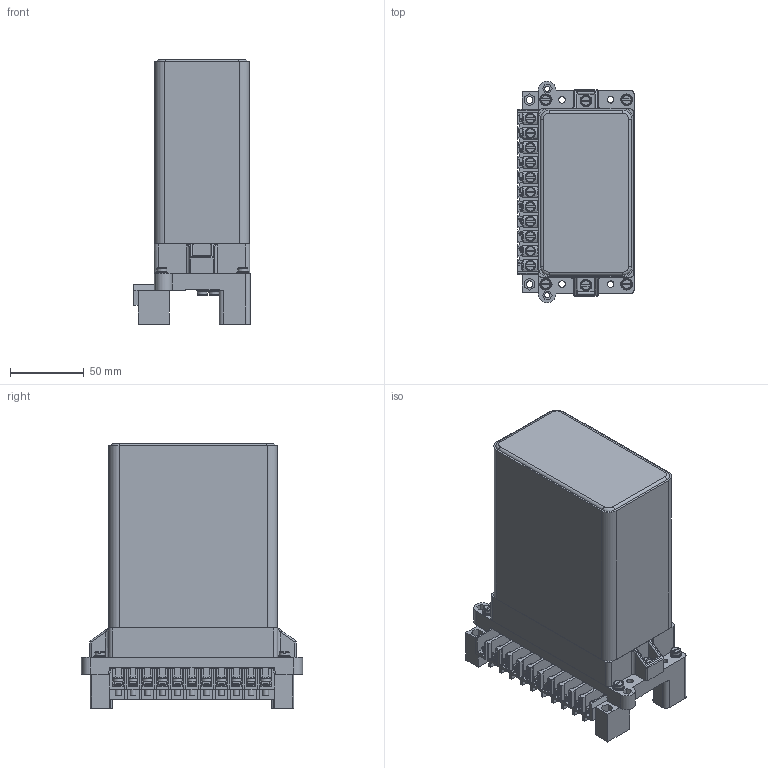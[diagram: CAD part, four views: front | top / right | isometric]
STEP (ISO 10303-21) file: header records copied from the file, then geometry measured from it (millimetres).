
FILE_DESCRIPTION(('STEP AP214'), '1');
FILE_NAME('ÈÃÔÐ.647537.001-85 - Ðåëå âðåìåíè ÐÂ-01', '', ('UNSPECIFIED'), ('UNSPECIFIED'), 'ASCON STEP Converter 1.3', 'ASCON Math Kernel', '');
FILE_SCHEMA(('AUTOMOTIVE_DESIGN { 1 0 10303 214 3 1 1}'));
Length unit declared in the file: millimetre
Products named in the file (1): 让孕.647537.001-85
Bounding box: 79 x 150 x 179.5 mm (x, y, z)
Volume: 1169700.9 mm3; surface area: 132242.2 mm2
Topology: 12 solids, 12 shells, 7381 faces, 18026 edges, 10733 vertices
Faces by surface type: plane 5788, extrusion 1223, cylinder 236, torus 83, cone 39, bspline 12
Full cylindrical faces by diameter (mm): 3.2 x11, 3.5 x2, 4 x23, 4.3 x6, 4.5 x23, 5 x2, 5.2 x11, 7 x2, 7.5 x2, 8 x8
Entity records: 274341 total; most frequent: CARTESIAN_POINT 49797, ORIENTED_EDGE 35660, DIRECTION 29287, EDGE_CURVE 17830, VECTOR 15451, LINE 14228, VERTEX_POINT 10722, EDGE_LOOP 7900
